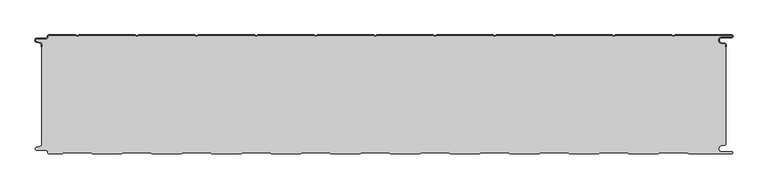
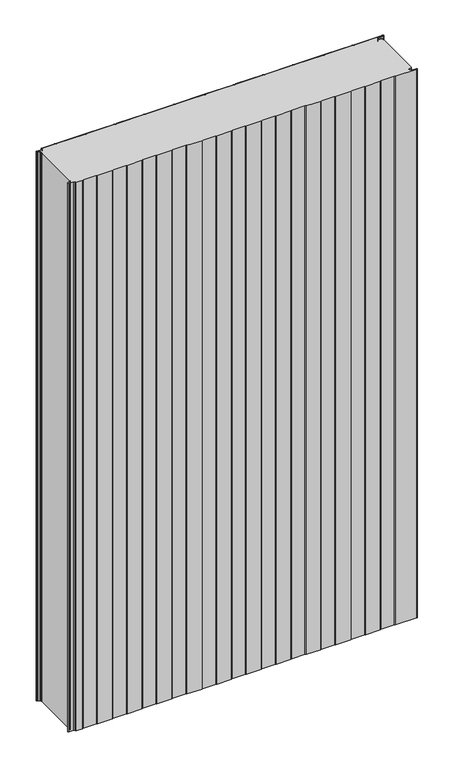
"""IFC4 building model written with IfcOpenShell, lengths in millimetres: plate geometry, PM1_Curtain-Panel_Perfil-Estándar : ACH_PM1_Panel-Acústico-Sectorización_200M."""

from ifc_helpers import new_model, si_unit, point, frame, frame_2d, origin, origin_with_axes, place, context, project, spatial, polyline, circle_curve, trimmed, segment, composite_curve, outline, extrude, source, transform, mapped, element, save
from ifc_brep_helpers import plane_surface, cylinder_surface, revolved_surface, advanced_brep


def plate_6d1bee30(model_context):
    return source(origin(), model_context, "Body", "SolidModel", [
        advanced_brep(
        [(-575.0, -15.878557, 1945.7507136), (-575.0, -20.0, 1945.7507136), (-574.2, -20.0, 1945.7507136), (-574.2, -15.878557, 1945.7507136), (-576.370137, -13.1503208, 1945.7507136), (-582.529863, -11.728236, 1945.7507136), (-581.9, -6.2, 1945.7507136), (-566.4, -6.2, 1945.7507136), (-563.6, -3.4, 1945.7507136), (-563.6, -2.0, 1945.7507136), (-562.4, -0.8, 1945.7507136), (-517.3143588, -0.8, 1945.7507136), (-514.4, -2.482606, 1945.7507136), (-511.4856412, -0.8, 1945.7507136), (-417.3143588, -0.8, 1945.7507136), (-414.4, -2.482606, 1945.7507136), (-411.4856412, -0.8, 1945.7507136), (-317.3143588, -0.8, 1945.7507136), (-314.4, -2.482606, 1945.7507136), (-311.4856412, -0.8, 1945.7507136), (-217.3143588, -0.8, 1945.7507136), (-214.4, -2.482606, 1945.7507136), (-211.4856412, -0.8, 1945.7507136), (-117.3143588, -0.8, 1945.7507136), (-114.4, -2.482606, 1945.7507136), (-111.4856412, -0.8, 1945.7507136), (-17.3143588, -0.8, 1945.7507136), (-14.4, -2.482606, 1945.7507136), (-11.4856412, -0.8, 1945.7507136), (82.6856412, -0.8, 1945.7507136), (85.6, -2.482606, 1945.7507136), (88.5143588, -0.8, 1945.7507136), (182.6856412, -0.8, 1945.7507136), (185.6, -2.482606, 1945.7507136), (188.5143588, -0.8, 1945.7507136), (282.6856412, -0.8, 1945.7507136), (285.6, -2.482606, 1945.7507136), (288.5143588, -0.8, 1945.7507136), (382.6856412, -0.8, 1945.7507136), (385.6, -2.482606, 1945.7507136), (388.5143588, -0.8, 1945.7507136), (482.6856412, -0.8, 1945.7507136), (485.6, -2.482606, 1945.7507136), (488.5143588, -0.8, 1945.7507136), (583.1, -0.8, 1945.7507136), (583.1, -4.2, 1945.7507136), (566.1, -4.2, 1945.7507136), (565.2664884, -13.7270771, 1945.7507136), (571.7125669, -14.8636953, 1945.7507136), (573.2, -16.6363492, 1945.7507136), (573.2, -20.0, 1945.7507136), (574.0, -20.0, 1945.7507136), (574.0, -16.6363492, 1945.7507136), (571.8514855, -14.0758491, 1945.7507136), (565.405407, -12.939231, 1945.7507136), (566.1, -5.0, 1945.7507136), (583.1, -5.0, 1945.7507136), (585.6, -2.5, 1945.7507136), (583.1, 0.0, 1945.7507136), (488.2999995, 0.0, 1945.7507136), (485.6, -1.5588455, 1945.7507136), (482.9000005, 0.0, 1945.7507136), (388.2999995, 0.0, 1945.7507136), (385.6, -1.5588455, 1945.7507136), (382.9000005, 0.0, 1945.7507136), (288.2999995, 0.0, 1945.7507136), (285.6, -1.5588455, 1945.7507136), (282.9000005, 0.0, 1945.7507136), (188.2999995, 0.0, 1945.7507136), (185.6, -1.5588455, 1945.7507136), (182.9000005, 0.0, 1945.7507136), (88.2999995, 0.0, 1945.7507136), (85.6, -1.5588455, 1945.7507136), (82.9000005, 0.0, 1945.7507136), (-11.7000005, 0.0, 1945.7507136), (-14.4, -1.5588455, 1945.7507136), (-17.0999995, 0.0, 1945.7507136), (-111.7000005, 0.0, 1945.7507136), (-114.4, -1.5588455, 1945.7507136), (-117.0999995, 0.0, 1945.7507136), (-211.7000005, 0.0, 1945.7507136), (-214.4, -1.5588455, 1945.7507136), (-217.0999995, 0.0, 1945.7507136), (-311.7000005, 0.0, 1945.7507136), (-314.4, -1.5588455, 1945.7507136), (-317.0999995, 0.0, 1945.7507136), (-411.7000005, 0.0, 1945.7507136), (-414.4, -1.5588455, 1945.7507136), (-417.0999995, 0.0, 1945.7507136), (-511.7000005, 0.0, 1945.7507136), (-514.4, -1.5588455, 1945.7507136), (-517.0999995, 0.0, 1945.7507136), (-562.4, 0.0, 1945.7507136), (-564.4, -2.0, 1945.7507136), (-564.4, -3.4, 1945.7507136), (-566.4, -5.4, 1945.7507136), (-581.9, -5.4, 1945.7507136), (-582.7098239, -12.5077322, 1945.7507136), (-576.5500979, -13.929817, 1945.7507136), (-575.0, -15.878557, 0.0), (-576.5500978, -13.9298169, 0.0), (-582.7098239, -12.507732, 0.0), (-581.9, -5.4, 0.0), (-566.4, -5.4, 0.0), (-564.4, -3.4, 0.0), (-564.4, -2.0, 0.0), (-562.4, 0.0, 0.0), (-517.0999995, 0.0, 0.0), (-514.4, -1.5588455, 0.0), (-511.7000005, 0.0, 0.0), (-417.0999995, 0.0, 0.0), (-414.4, -1.5588455, 0.0), (-411.7000005, 0.0, 0.0), (-317.0999995, 0.0, 0.0), (-314.4, -1.5588455, 0.0), (-311.7000005, 0.0, 0.0), (-217.0999995, 0.0, 0.0), (-214.4, -1.5588455, 0.0), (-211.7000005, 0.0, 0.0), (-117.0999995, 0.0, 0.0), (-114.4, -1.5588455, 0.0), (-111.7000005, 0.0, 0.0), (-17.0999995, 0.0, 0.0), (-14.4, -1.5588455, 0.0), (-11.7000005, 0.0, 0.0), (82.9000005, 0.0, 0.0), (85.6, -1.5588455, 0.0), (88.2999995, 0.0, 0.0), (182.9000005, 0.0, 0.0), (185.6, -1.5588455, 0.0), (188.2999995, 0.0, 0.0), (282.9000005, 0.0, 0.0), (285.6, -1.5588455, 0.0), (288.2999995, 0.0, 0.0), (382.9000005, 0.0, 0.0), (385.6, -1.5588455, 0.0), (388.2999995, 0.0, 0.0), (482.9000005, 0.0, 0.0), (485.6, -1.5588455, 0.0), (488.2999995, 0.0, 0.0), (583.1, 0.0, 0.0), (585.6, -2.5, 0.0), (583.1, -5.0, 0.0), (566.1, -5.0, 0.0), (565.405407, -12.939231, 0.0), (571.8514855, -14.0758491, 0.0), (574.0, -16.6363492, 0.0), (574.0, -20.0, 0.0), (573.2, -20.0, 0.0), (573.2, -16.6363492, 0.0), (571.7125669, -14.8636953, 0.0), (565.2664884, -13.7270772, 0.0), (566.1, -4.2, 0.0), (583.1, -4.2, 0.0), (583.1, -0.8, 0.0), (488.5143588, -0.8, 0.0), (485.6, -2.482606, 0.0), (482.6856412, -0.8, 0.0), (388.5143588, -0.8, 0.0), (385.6, -2.482606, 0.0), (382.6856412, -0.8, 0.0), (288.5143588, -0.8, 0.0), (285.6, -2.482606, 0.0), (282.6856412, -0.8, 0.0), (188.5143588, -0.8, 0.0), (185.6, -2.482606, 0.0), (182.6856412, -0.8, 0.0), (88.5143588, -0.8, 0.0), (85.6, -2.482606, 0.0), (82.6856412, -0.8, 0.0), (-11.4856412, -0.8, 0.0), (-14.4, -2.482606, 0.0), (-17.3143588, -0.8, 0.0), (-111.4856412, -0.8, 0.0), (-114.4, -2.482606, 0.0), (-117.3143588, -0.8, 0.0), (-211.4856412, -0.8, 0.0), (-214.4, -2.482606, 0.0), (-217.3143588, -0.8, 0.0), (-311.4856412, -0.8, 0.0), (-314.4, -2.482606, 0.0), (-317.3143588, -0.8, 0.0), (-411.4856412, -0.8, 0.0), (-414.4, -2.482606, 0.0), (-417.3143588, -0.8, 0.0), (-511.4856412, -0.8, 0.0), (-514.4, -2.482606, 0.0), (-517.3143588, -0.8, 0.0), (-562.4, -0.8, 0.0), (-563.6, -2.0, 0.0), (-563.6, -3.4, 0.0), (-566.4, -6.2, 0.0), (-581.9, -6.2, 0.0), (-582.529863, -11.7282362, 0.0), (-576.370137, -13.150321, 0.0), (-574.2, -15.878557, 0.0), (-574.2, -20.0, 0.0), (-575.0, -20.0, 0.0)],
        [
            (0, 1),
            (1, 2),
            (2, 3),
            (3, 4, circle_curve(frame((-577.0, -15.878557, 1945.7507136), z_axis=(0.0, 0.0, 1.0), x_axis=(1.0, 0.0, 0.0)), 2.8)),
            (4, 5),
            (5, 6, circle_curve(frame((-581.9, -9.0, 1945.7507136), z_axis=(0.0, 0.0, -1.0), x_axis=(1.0, 0.0, 0.0)), 2.8)),
            (6, 7),
            (7, 8, circle_curve(frame((-566.4, -3.4, 1945.7507136), z_axis=(0.0, 0.0, 1.0), x_axis=(1.0, 0.0, 0.0)), 2.8)),
            (8, 9),
            (9, 10, circle_curve(frame((-562.4, -2.0, 1945.7507136), z_axis=(0.0, 0.0, -1.0), x_axis=(1.0, 0.0, 0.0)), 1.2)),
            (10, 11),
            (11, 12),
            (12, 13),
            (13, 14),
            (14, 15),
            (15, 16),
            (16, 17),
            (17, 18),
            (18, 19),
            (19, 20),
            (20, 21),
            (21, 22),
            (22, 23),
            (23, 24),
            (24, 25),
            (25, 26),
            (26, 27),
            (27, 28),
            (28, 29),
            (29, 30),
            (30, 31),
            (31, 32),
            (32, 33),
            (33, 34),
            (34, 35),
            (35, 36),
            (36, 37),
            (37, 38),
            (38, 39),
            (39, 40),
            (40, 41),
            (41, 42),
            (42, 43),
            (43, 44),
            (44, 45, circle_curve(frame((583.1, -2.5, 1945.7507136), z_axis=(0.0, 0.0, -1.0), x_axis=(1.0, 0.0, 0.0)), 1.7)),
            (45, 46),
            (46, 47, circle_curve(frame((566.1, -9.0, 1945.7507136), z_axis=(0.0, 0.0, 1.0), x_axis=(1.0, 0.0, 0.0)), 4.8)),
            (47, 48),
            (48, 49, circle_curve(frame((571.4, -16.6363492, 1945.7507136), z_axis=(0.0, 0.0, -1.0), x_axis=(1.0, 0.0, 0.0)), 1.8)),
            (49, 50),
            (50, 51),
            (51, 52),
            (52, 53, circle_curve(frame((571.4, -16.6363492, 1945.7507136), z_axis=(0.0, 0.0, 1.0), x_axis=(1.0, 0.0, 0.0)), 2.6)),
            (53, 54),
            (54, 55, circle_curve(frame((566.1, -9.0, 1945.7507136), z_axis=(0.0, 0.0, -1.0), x_axis=(1.0, 0.0, 0.0)), 4.0)),
            (55, 56),
            (56, 57, circle_curve(frame((583.1, -2.5, 1945.7507136), z_axis=(0.0, 0.0, 1.0), x_axis=(1.0, 0.0, 0.0)), 2.5)),
            (57, 58, circle_curve(frame((583.1, -2.5, 1945.7507136), z_axis=(0.0, 0.0, 1.0), x_axis=(1.0, 0.0, 0.0)), 2.5)),
            (58, 59),
            (59, 60),
            (60, 61),
            (61, 62),
            (62, 63),
            (63, 64),
            (64, 65),
            (65, 66),
            (66, 67),
            (67, 68),
            (68, 69),
            (69, 70),
            (70, 71),
            (71, 72),
            (72, 73),
            (73, 74),
            (74, 75),
            (75, 76),
            (76, 77),
            (77, 78),
            (78, 79),
            (79, 80),
            (80, 81),
            (81, 82),
            (82, 83),
            (83, 84),
            (84, 85),
            (85, 86),
            (86, 87),
            (87, 88),
            (88, 89),
            (89, 90),
            (90, 91),
            (91, 92),
            (92, 93, circle_curve(frame((-562.4, -2.0, 1945.7507136), z_axis=(0.0, 0.0, 1.0), x_axis=(1.0, 0.0, 0.0)), 2.0)),
            (93, 94),
            (94, 95, circle_curve(frame((-566.4, -3.4, 1945.7507136), z_axis=(0.0, 0.0, -1.0), x_axis=(1.0, 0.0, 0.0)), 2.0)),
            (95, 96),
            (96, 97, circle_curve(frame((-581.9, -9.0, 1945.7507136), z_axis=(0.0, 0.0, 1.0), x_axis=(1.0, 0.0, 0.0)), 3.6)),
            (97, 98),
            (98, 0, circle_curve(frame((-577.0, -15.878557, 1945.7507136), z_axis=(0.0, 0.0, -1.0), x_axis=(1.0, 0.0, 0.0)), 2.0)),
            (99, 100, circle_curve(frame((-577.0, -15.878557, 0.0), z_axis=(0.0, 0.0, 1.0), x_axis=(1.0, 0.0, 0.0)), 2.0)),
            (100, 101),
            (101, 102, circle_curve(frame((-581.9, -9.0, 0.0), z_axis=(0.0, 0.0, -1.0), x_axis=(1.0, 0.0, 0.0)), 3.6)),
            (102, 103),
            (103, 104, circle_curve(frame((-566.4, -3.4, 0.0), z_axis=(0.0, 0.0, 1.0), x_axis=(1.0, 0.0, 0.0)), 2.0)),
            (104, 105),
            (105, 106, circle_curve(frame((-562.4, -2.0, 0.0), z_axis=(0.0, 0.0, -1.0), x_axis=(1.0, 0.0, 0.0)), 2.0)),
            (106, 107),
            (107, 108),
            (108, 109),
            (109, 110),
            (110, 111),
            (111, 112),
            (112, 113),
            (113, 114),
            (114, 115),
            (115, 116),
            (116, 117),
            (117, 118),
            (118, 119),
            (119, 120),
            (120, 121),
            (121, 122),
            (122, 123),
            (123, 124),
            (124, 125),
            (125, 126),
            (126, 127),
            (127, 128),
            (128, 129),
            (129, 130),
            (130, 131),
            (131, 132),
            (132, 133),
            (133, 134),
            (134, 135),
            (135, 136),
            (136, 137),
            (137, 138),
            (138, 139),
            (139, 140),
            (140, 141, circle_curve(frame((583.1, -2.5, 0.0), z_axis=(0.0, 0.0, -1.0), x_axis=(1.0, 0.0, 0.0)), 2.5)),
            (141, 142, circle_curve(frame((583.1, -2.5, 0.0), z_axis=(0.0, 0.0, -1.0), x_axis=(1.0, 0.0, 0.0)), 2.5)),
            (142, 143),
            (143, 144, circle_curve(frame((566.1, -9.0, 0.0), z_axis=(0.0, 0.0, 1.0), x_axis=(1.0, 0.0, 0.0)), 4.0)),
            (144, 145),
            (145, 146, circle_curve(frame((571.4, -16.6363492, 0.0), z_axis=(0.0, 0.0, -1.0), x_axis=(1.0, 0.0, 0.0)), 2.6)),
            (146, 147),
            (147, 148),
            (148, 149),
            (149, 150, circle_curve(frame((571.4, -16.6363492, 0.0), z_axis=(0.0, 0.0, 1.0), x_axis=(1.0, 0.0, 0.0)), 1.8)),
            (150, 151),
            (151, 152, circle_curve(frame((566.1, -9.0, 0.0), z_axis=(0.0, 0.0, -1.0), x_axis=(1.0, 0.0, 0.0)), 4.8)),
            (152, 153),
            (153, 154, circle_curve(frame((583.1, -2.5, 0.0), z_axis=(0.0, 0.0, 1.0), x_axis=(1.0, 0.0, 0.0)), 1.7)),
            (154, 155),
            (155, 156),
            (156, 157),
            (157, 158),
            (158, 159),
            (159, 160),
            (160, 161),
            (161, 162),
            (162, 163),
            (163, 164),
            (164, 165),
            (165, 166),
            (166, 167),
            (167, 168),
            (168, 169),
            (169, 170),
            (170, 171),
            (171, 172),
            (172, 173),
            (173, 174),
            (174, 175),
            (175, 176),
            (176, 177),
            (177, 178),
            (178, 179),
            (179, 180),
            (180, 181),
            (181, 182),
            (182, 183),
            (183, 184),
            (184, 185),
            (185, 186),
            (186, 187),
            (187, 188),
            (188, 189, circle_curve(frame((-562.4, -2.0, 0.0), z_axis=(0.0, 0.0, 1.0), x_axis=(1.0, 0.0, 0.0)), 1.2)),
            (189, 190),
            (190, 191, circle_curve(frame((-566.4, -3.4, 0.0), z_axis=(0.0, 0.0, -1.0), x_axis=(1.0, 0.0, 0.0)), 2.8)),
            (191, 192),
            (192, 193, circle_curve(frame((-581.9, -9.0, 0.0), z_axis=(0.0, 0.0, 1.0), x_axis=(1.0, 0.0, 0.0)), 2.8)),
            (193, 194),
            (194, 195, circle_curve(frame((-577.0, -15.878557, 0.0), z_axis=(0.0, 0.0, -1.0), x_axis=(1.0, 0.0, 0.0)), 2.8)),
            (195, 196),
            (196, 197),
            (197, 99),
            (0, 99),
            (197, 1),
            (196, 2),
            (195, 3),
            (194, 4),
            (193, 5),
            (192, 6),
            (191, 7),
            (190, 8),
            (189, 9),
            (188, 10),
            (187, 11),
            (186, 12),
            (185, 13),
            (184, 14),
            (183, 15),
            (182, 16),
            (181, 17),
            (180, 18),
            (179, 19),
            (178, 20),
            (177, 21),
            (176, 22),
            (175, 23),
            (174, 24),
            (173, 25),
            (172, 26),
            (171, 27),
            (170, 28),
            (169, 29),
            (168, 30),
            (167, 31),
            (166, 32),
            (165, 33),
            (164, 34),
            (163, 35),
            (162, 36),
            (161, 37),
            (160, 38),
            (159, 39),
            (158, 40),
            (157, 41),
            (156, 42),
            (155, 43),
            (154, 44),
            (153, 45),
            (152, 46),
            (151, 47),
            (150, 48),
            (149, 49),
            (148, 50),
            (147, 51),
            (146, 52),
            (145, 53),
            (144, 54),
            (143, 55),
            (142, 56),
            (140, 58),
            (139, 59),
            (138, 60),
            (137, 61),
            (136, 62),
            (135, 63),
            (134, 64),
            (133, 65),
            (132, 66),
            (131, 67),
            (130, 68),
            (129, 69),
            (128, 70),
            (127, 71),
            (126, 72),
            (125, 73),
            (124, 74),
            (123, 75),
            (122, 76),
            (121, 77),
            (120, 78),
            (119, 79),
            (118, 80),
            (117, 81),
            (116, 82),
            (115, 83),
            (114, 84),
            (113, 85),
            (112, 86),
            (111, 87),
            (110, 88),
            (109, 89),
            (108, 90),
            (107, 91),
            (106, 92),
            (105, 93),
            (104, 94),
            (103, 95),
            (102, 96),
            (101, 97),
            (100, 98),
        ],
        [
            plane_surface(frame((-575.0, 0.0, 1945.7507136), z_axis=(0.0, 0.0, 1.0), x_axis=(0.0, 1.0, 0.0))),
            plane_surface(frame((-575.0, 0.0, 0.0), z_axis=(0.0, 0.0, -1.0), x_axis=(0.0, 1.0, 0.0))),
            plane_surface(frame((-575.0, -15.878557, 1945.7507136), z_axis=(-1.0, 0.0, 0.0), x_axis=(0.0, 0.0, -1.0))),
            plane_surface(frame((-575.0, -20.0, 1945.7507136), z_axis=(0.0, -1.0, 0.0), x_axis=(0.0, 0.0, -1.0))),
            plane_surface(frame((-574.2, -20.0, 1945.7507136), z_axis=(1.0, 0.0, 0.0), x_axis=(0.0, 0.0, -1.0))),
            cylinder_surface(frame((-577.0, -15.878557, 1945.7507136), z_axis=(0.0, 0.0, 1.0), x_axis=(1.0, 0.0, 0.0)), 2.8),
            plane_surface(frame((-576.370137, -13.150321, 1945.7507136), z_axis=(0.22495108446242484, 0.9743700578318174, 0.0), x_axis=(0.0, 0.0, -1.0))),
            revolved_surface(polyline([(-579.1, -9.0, 0.0), (-579.1, -9.0, 1945.7507136)]), (-581.9, -9.0, 1945.7507136), (0.0, 0.0, -1.0)),
            plane_surface(frame((-581.9, -6.2, 1945.7507136), z_axis=(0.0, -1.0, 0.0), x_axis=(0.0, 0.0, -1.0))),
            cylinder_surface(frame((-566.4, -3.4, 1945.7507136), z_axis=(0.0, 0.0, 1.0), x_axis=(1.0, 0.0, 0.0)), 2.8),
            plane_surface(frame((-563.6, -3.4, 1945.7507136), z_axis=(1.0, 0.0, 0.0), x_axis=(0.0, 0.0, -1.0))),
            revolved_surface(polyline([(-561.1999999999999, -2.0, 0.0), (-561.1999999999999, -2.0, 1945.7507136)]), (-562.4, -2.0, 1945.7507136), (0.0, 0.0, -1.0)),
            plane_surface(frame((-562.4, -0.8, 1945.7507136), z_axis=(0.0, -1.0, 0.0), x_axis=(0.0, 0.0, -1.0))),
            plane_surface(frame((-517.3143588, -0.8, 1945.7507136), z_axis=(-0.5000000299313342, -0.8660253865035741, 0.0), x_axis=(0.0, 0.0, -1.0))),
            plane_surface(frame((-514.4, -2.482606, 1945.7507136), z_axis=(0.5000000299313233, -0.8660253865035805, 0.0), x_axis=(0.0, 0.0, -1.0))),
            plane_surface(frame((-511.4856412, -0.8, 1945.7507136), z_axis=(0.0, -1.0, 0.0), x_axis=(0.0, 0.0, -1.0))),
            plane_surface(frame((-417.3143588, -0.8, 1945.7507136), z_axis=(-0.5000000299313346, -0.8660253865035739, 0.0), x_axis=(0.0, 0.0, -1.0))),
            plane_surface(frame((-414.4, -2.482606, 1945.7507136), z_axis=(0.5000000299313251, -0.8660253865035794, 0.0), x_axis=(0.0, 0.0, -1.0))),
            plane_surface(frame((-411.4856412, -0.8, 1945.7507136), z_axis=(0.0, -1.0, 0.0), x_axis=(0.0, 0.0, -1.0))),
            plane_surface(frame((-317.3143588, -0.8, 1945.7507136), z_axis=(-0.5000000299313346, -0.866025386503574, 0.0), x_axis=(0.0, 0.0, -1.0))),
            plane_surface(frame((-314.4, -2.482606, 1945.7507136), z_axis=(0.5000000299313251, -0.8660253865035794, 0.0), x_axis=(0.0, 0.0, -1.0))),
            plane_surface(frame((-311.4856412, -0.8, 1945.7507136), z_axis=(0.0, -1.0, 0.0), x_axis=(0.0, 0.0, -1.0))),
            plane_surface(frame((-217.3143588, -0.8, 1945.7507136), z_axis=(-0.5000000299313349, -0.8660253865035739, 0.0), x_axis=(0.0, 0.0, -1.0))),
            plane_surface(frame((-214.4, -2.482606, 1945.7507136), z_axis=(0.5000000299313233, -0.8660253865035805, 0.0), x_axis=(0.0, 0.0, -1.0))),
            plane_surface(frame((-211.4856412, -0.8, 1945.7507136), z_axis=(0.0, -1.0, 0.0), x_axis=(0.0, 0.0, -1.0))),
            plane_surface(frame((-117.3143588, -0.8, 1945.7507136), z_axis=(-0.5000000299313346, -0.866025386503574, 0.0), x_axis=(0.0, 0.0, -1.0))),
            plane_surface(frame((-114.4, -2.482606, 1945.7507136), z_axis=(0.5000000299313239, -0.8660253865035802, 0.0), x_axis=(0.0, 0.0, -1.0))),
            plane_surface(frame((-111.4856412, -0.8, 1945.7507136), z_axis=(0.0, -1.0, 0.0), x_axis=(0.0, 0.0, -1.0))),
            plane_surface(frame((-17.3143588, -0.8, 1945.7507136), z_axis=(-0.5000000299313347, -0.8660253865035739, 0.0), x_axis=(0.0, 0.0, -1.0))),
            plane_surface(frame((-14.4, -2.482606, 1945.7507136), z_axis=(0.5000000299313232, -0.8660253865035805, 0.0), x_axis=(0.0, 0.0, -1.0))),
            plane_surface(frame((-11.4856412, -0.8, 1945.7507136), z_axis=(0.0, -1.0, 0.0), x_axis=(0.0, 0.0, -1.0))),
            plane_surface(frame((82.6856412, -0.8, 1945.7507136), z_axis=(-0.5000000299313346, -0.866025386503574, 0.0), x_axis=(0.0, 0.0, -1.0))),
            plane_surface(frame((85.6, -2.482606, 1945.7507136), z_axis=(0.5000000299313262, -0.8660253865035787, 0.0), x_axis=(0.0, 0.0, -1.0))),
            plane_surface(frame((88.5143588, -0.8, 1945.7507136), z_axis=(0.0, -1.0, 0.0), x_axis=(0.0, 0.0, -1.0))),
            plane_surface(frame((182.6856412, -0.8, 1945.7507136), z_axis=(-0.5000000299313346, -0.8660253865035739, 0.0), x_axis=(0.0, 0.0, -1.0))),
            plane_surface(frame((185.6, -2.482606, 1945.7507136), z_axis=(0.5000000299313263, -0.8660253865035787, 0.0), x_axis=(0.0, 0.0, -1.0))),
            plane_surface(frame((188.5143588, -0.8, 1945.7507136), z_axis=(0.0, -1.0, 0.0), x_axis=(0.0, 0.0, -1.0))),
            plane_surface(frame((282.6856412, -0.8, 1945.7507136), z_axis=(-0.5000000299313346, -0.8660253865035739, 0.0), x_axis=(0.0, 0.0, -1.0))),
            plane_surface(frame((285.6, -2.482606, 1945.7507136), z_axis=(0.5000000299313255, -0.8660253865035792, 0.0), x_axis=(0.0, 0.0, -1.0))),
            plane_surface(frame((288.5143588, -0.8, 1945.7507136), z_axis=(0.0, -1.0, 0.0), x_axis=(0.0, 0.0, -1.0))),
            plane_surface(frame((382.6856412, -0.8, 1945.7507136), z_axis=(-0.5000000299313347, -0.8660253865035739, 0.0), x_axis=(0.0, 0.0, -1.0))),
            plane_surface(frame((385.6, -2.482606, 1945.7507136), z_axis=(0.5000000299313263, -0.8660253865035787, 0.0), x_axis=(0.0, 0.0, -1.0))),
            plane_surface(frame((388.5143588, -0.8, 1945.7507136), z_axis=(0.0, -1.0, 0.0), x_axis=(0.0, 0.0, -1.0))),
            plane_surface(frame((482.6856412, -0.8, 1945.7507136), z_axis=(-0.5000000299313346, -0.866025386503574, 0.0), x_axis=(0.0, 0.0, -1.0))),
            plane_surface(frame((485.6, -2.482606, 1945.7507136), z_axis=(0.5000000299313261, -0.8660253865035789, 0.0), x_axis=(0.0, 0.0, -1.0))),
            plane_surface(frame((535.6, -0.8, 1945.7507136), z_axis=(0.0, -1.0, 0.0), x_axis=(0.0, 0.0, -1.0))),
            revolved_surface(polyline([(584.8000000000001, -2.5, 0.0), (584.8000000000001, -2.5, 1945.7507136)]), (583.1, -2.5, 1945.7507136), (0.0, 0.0, -1.0)),
            plane_surface(frame((583.1, -4.2, 1945.7507136), z_axis=(0.0, 1.0, 0.0), x_axis=(0.0, 0.0, -1.0))),
            cylinder_surface(frame((566.1, -9.0, 1945.7507136), z_axis=(0.0, 0.0, 1.0), x_axis=(1.0, 0.0, 0.0)), 4.8),
            plane_surface(frame((565.2664884, -13.7270772, 1945.7507136), z_axis=(-0.17364825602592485, -0.9848077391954, 0.0), x_axis=(0.0, 0.0, -1.0))),
            revolved_surface(polyline([(573.1999999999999, -16.6363492, 0.0), (573.1999999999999, -16.6363492, 1945.7507136)]), (571.4, -16.6363492, 1945.7507136), (0.0, 0.0, -1.0)),
            plane_surface(frame((573.2, -16.6363492, 1945.7507136), z_axis=(-1.0, 0.0, 0.0), x_axis=(0.0, 0.0, -1.0))),
            plane_surface(frame((573.2, -20.0, 1945.7507136), z_axis=(0.0, -1.0, 0.0), x_axis=(0.0, 0.0, -1.0))),
            plane_surface(frame((574.0, -20.0, 1945.7507136), z_axis=(1.0, 0.0, 0.0), x_axis=(0.0, 0.0, -1.0))),
            cylinder_surface(frame((571.4, -16.6363492, 1945.7507136), z_axis=(0.0, 0.0, 1.0), x_axis=(1.0, 0.0, 0.0)), 2.6),
            plane_surface(frame((571.8514855, -14.0758491, 1945.7507136), z_axis=(0.1736482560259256, 0.9848077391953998, 0.0), x_axis=(0.0, 0.0, -1.0))),
            revolved_surface(polyline([(570.1, -9.0, 0.0), (570.1, -9.0, 1945.7507136)]), (566.1, -9.0, 1945.7507136), (0.0, 0.0, -1.0)),
            plane_surface(frame((566.1, -5.0, 1945.7507136), z_axis=(0.0, -1.0, 0.0), x_axis=(0.0, 0.0, -1.0))),
            cylinder_surface(frame((583.1, -2.5, 1945.7507136), z_axis=(0.0, 0.0, 1.0), x_axis=(1.0, 0.0, 0.0)), 2.5),
            plane_surface(frame((535.6, 0.0, 1945.7507136), z_axis=(0.0, 1.0, 0.0), x_axis=(0.0, 0.0, -1.0))),
            plane_surface(frame((488.2999995, 0.0, 1945.7507136), z_axis=(-0.5000000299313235, 0.8660253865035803, 0.0), x_axis=(0.0, 0.0, -1.0))),
            plane_surface(frame((485.6, -1.5588455, 1945.7507136), z_axis=(0.5000000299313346, 0.8660253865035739, 0.0), x_axis=(0.0, 0.0, -1.0))),
            plane_surface(frame((482.9000005, 0.0, 1945.7507136), z_axis=(0.0, 1.0, 0.0), x_axis=(0.0, 0.0, -1.0))),
            plane_surface(frame((388.2999995, 0.0, 1945.7507136), z_axis=(-0.5000000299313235, 0.8660253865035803, 0.0), x_axis=(0.0, 0.0, -1.0))),
            plane_surface(frame((385.6, -1.5588455, 1945.7507136), z_axis=(0.5000000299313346, 0.8660253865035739, 0.0), x_axis=(0.0, 0.0, -1.0))),
            plane_surface(frame((382.9000005, 0.0, 1945.7507136), z_axis=(0.0, 1.0, 0.0), x_axis=(0.0, 0.0, -1.0))),
            plane_surface(frame((288.2999995, 0.0, 1945.7507136), z_axis=(-0.5000000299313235, 0.8660253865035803, 0.0), x_axis=(0.0, 0.0, -1.0))),
            plane_surface(frame((285.6, -1.5588455, 1945.7507136), z_axis=(0.5000000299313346, 0.8660253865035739, 0.0), x_axis=(0.0, 0.0, -1.0))),
            plane_surface(frame((282.9000005, 0.0, 1945.7507136), z_axis=(0.0, 1.0, 0.0), x_axis=(0.0, 0.0, -1.0))),
            plane_surface(frame((188.2999995, 0.0, 1945.7507136), z_axis=(-0.5000000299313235, 0.8660253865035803, 0.0), x_axis=(0.0, 0.0, -1.0))),
            plane_surface(frame((185.6, -1.5588455, 1945.7507136), z_axis=(0.5000000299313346, 0.8660253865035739, 0.0), x_axis=(0.0, 0.0, -1.0))),
            plane_surface(frame((182.9000005, 0.0, 1945.7507136), z_axis=(0.0, 1.0, 0.0), x_axis=(0.0, 0.0, -1.0))),
            plane_surface(frame((88.2999995, 0.0, 1945.7507136), z_axis=(-0.5000000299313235, 0.8660253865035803, 0.0), x_axis=(0.0, 0.0, -1.0))),
            plane_surface(frame((85.6, -1.5588455, 1945.7507136), z_axis=(0.5000000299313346, 0.8660253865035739, 0.0), x_axis=(0.0, 0.0, -1.0))),
            plane_surface(frame((82.9000005, 0.0, 1945.7507136), z_axis=(0.0, 1.0, 0.0), x_axis=(0.0, 0.0, -1.0))),
            plane_surface(frame((-11.7000005, 0.0, 1945.7507136), z_axis=(-0.5000000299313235, 0.8660253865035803, 0.0), x_axis=(0.0, 0.0, -1.0))),
            plane_surface(frame((-14.4, -1.5588455, 1945.7507136), z_axis=(0.5000000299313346, 0.8660253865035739, 0.0), x_axis=(0.0, 0.0, -1.0))),
            plane_surface(frame((-17.0999995, 0.0, 1945.7507136), z_axis=(0.0, 1.0, 0.0), x_axis=(0.0, 0.0, -1.0))),
            plane_surface(frame((-111.7000005, 0.0, 1945.7507136), z_axis=(-0.5000000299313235, 0.8660253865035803, 0.0), x_axis=(0.0, 0.0, -1.0))),
            plane_surface(frame((-114.4, -1.5588455, 1945.7507136), z_axis=(0.5000000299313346, 0.8660253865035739, 0.0), x_axis=(0.0, 0.0, -1.0))),
            plane_surface(frame((-117.0999995, 0.0, 1945.7507136), z_axis=(0.0, 1.0, 0.0), x_axis=(0.0, 0.0, -1.0))),
            plane_surface(frame((-211.7000005, 0.0, 1945.7507136), z_axis=(-0.5000000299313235, 0.8660253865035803, 0.0), x_axis=(0.0, 0.0, -1.0))),
            plane_surface(frame((-214.4, -1.5588455, 1945.7507136), z_axis=(0.5000000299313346, 0.8660253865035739, 0.0), x_axis=(0.0, 0.0, -1.0))),
            plane_surface(frame((-217.0999995, 0.0, 1945.7507136), z_axis=(0.0, 1.0, 0.0), x_axis=(0.0, 0.0, -1.0))),
            plane_surface(frame((-311.7000005, 0.0, 1945.7507136), z_axis=(-0.5000000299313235, 0.8660253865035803, 0.0), x_axis=(0.0, 0.0, -1.0))),
            plane_surface(frame((-314.4, -1.5588455, 1945.7507136), z_axis=(0.5000000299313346, 0.8660253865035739, 0.0), x_axis=(0.0, 0.0, -1.0))),
            plane_surface(frame((-317.0999995, 0.0, 1945.7507136), z_axis=(0.0, 1.0, 0.0), x_axis=(0.0, 0.0, -1.0))),
            plane_surface(frame((-411.7000005, 0.0, 1945.7507136), z_axis=(-0.5000000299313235, 0.8660253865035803, 0.0), x_axis=(0.0, 0.0, -1.0))),
            plane_surface(frame((-414.4, -1.5588455, 1945.7507136), z_axis=(0.5000000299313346, 0.8660253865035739, 0.0), x_axis=(0.0, 0.0, -1.0))),
            plane_surface(frame((-417.0999995, 0.0, 1945.7507136), z_axis=(0.0, 1.0, 0.0), x_axis=(0.0, 0.0, -1.0))),
            plane_surface(frame((-511.7000005, 0.0, 1945.7507136), z_axis=(-0.5000000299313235, 0.8660253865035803, 0.0), x_axis=(0.0, 0.0, -1.0))),
            plane_surface(frame((-514.4, -1.5588455, 1945.7507136), z_axis=(0.5000000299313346, 0.8660253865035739, 0.0), x_axis=(0.0, 0.0, -1.0))),
            plane_surface(frame((-517.0999995, 0.0, 1945.7507136), z_axis=(0.0, 1.0, 0.0), x_axis=(0.0, 0.0, -1.0))),
            cylinder_surface(frame((-562.4, -2.0, 1945.7507136), z_axis=(0.0, 0.0, 1.0), x_axis=(1.0, 0.0, 0.0)), 2.0),
            plane_surface(frame((-564.4, -2.0, 1945.7507136), z_axis=(-1.0, 0.0, 0.0), x_axis=(0.0, 0.0, -1.0))),
            revolved_surface(polyline([(-564.4, -3.4, 0.0), (-564.4, -3.4, 1945.7507136)]), (-566.4, -3.4, 1945.7507136), (0.0, 0.0, -1.0)),
            plane_surface(frame((-566.4, -5.4, 1945.7507136), z_axis=(0.0, 1.0, 0.0), x_axis=(0.0, 0.0, -1.0))),
            cylinder_surface(frame((-581.9, -9.0, 1945.7507136), z_axis=(0.0, 0.0, 1.0), x_axis=(1.0, 0.0, 0.0)), 3.6),
            plane_surface(frame((-582.7098239, -12.507732, 1945.7507136), z_axis=(-0.22495108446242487, -0.9743700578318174, 0.0), x_axis=(0.0, 0.0, -1.0))),
            revolved_surface(polyline([(-575.0, -15.878557, 0.0), (-575.0, -15.878557, 1945.7507136)]), (-577.0, -15.878557, 1945.7507136), (0.0, 0.0, -1.0)),
        ],
        [
            (0, [[1, 2, 3, 4, 5, 6, 7, 8, 9, 10, 11, 12, 13, 14, 15, 16, 17, 18, 19, 20, 21, 22, 23, 24, 25, 26, 27, 28, 29, 30, 31, 32, 33, 34, 35, 36, 37, 38, 39, 40, 41, 42, 43, 44, 45, 46, 47, 48, 49, 50, 51, 52, 53, 54, 55, 56, 57, 58, 59, 60, 61, 62, 63, 64, 65, 66, 67, 68, 69, 70, 71, 72, 73, 74, 75, 76, 77, 78, 79, 80, 81, 82, 83, 84, 85, 86, 87, 88, 89, 90, 91, 92, 93, 94, 95, 96, 97, 98, 99]]),
            (1, [[100, 101, 102, 103, 104, 105, 106, 107, 108, 109, 110, 111, 112, 113, 114, 115, 116, 117, 118, 119, 120, 121, 122, 123, 124, 125, 126, 127, 128, 129, 130, 131, 132, 133, 134, 135, 136, 137, 138, 139, 140, 141, 142, 143, 144, 145, 146, 147, 148, 149, 150, 151, 152, 153, 154, 155, 156, 157, 158, 159, 160, 161, 162, 163, 164, 165, 166, 167, 168, 169, 170, 171, 172, 173, 174, 175, 176, 177, 178, 179, 180, 181, 182, 183, 184, 185, 186, 187, 188, 189, 190, 191, 192, 193, 194, 195, 196, 197, 198]]),
            (2, [[-1, 199, -198, 200]]),
            (3, [[-2, -200, -197, 201]]),
            (4, [[-3, -201, -196, 202]]),
            (5, [[-4, -202, -195, 203]]),
            (6, [[-5, -203, -194, 204]]),
            (7, [[-6, -204, -193, 205]]),
            (8, [[-7, -205, -192, 206]]),
            (9, [[-8, -206, -191, 207]]),
            (10, [[-9, -207, -190, 208]]),
            (11, [[-10, -208, -189, 209]]),
            (12, [[-11, -209, -188, 210]]),
            (13, [[-12, -210, -187, 211]]),
            (14, [[-13, -211, -186, 212]]),
            (15, [[-14, -212, -185, 213]]),
            (16, [[-15, -213, -184, 214]]),
            (17, [[-16, -214, -183, 215]]),
            (18, [[-17, -215, -182, 216]]),
            (19, [[-18, -216, -181, 217]]),
            (20, [[-19, -217, -180, 218]]),
            (21, [[-20, -218, -179, 219]]),
            (22, [[-21, -219, -178, 220]]),
            (23, [[-22, -220, -177, 221]]),
            (24, [[-23, -221, -176, 222]]),
            (25, [[-24, -222, -175, 223]]),
            (26, [[-25, -223, -174, 224]]),
            (27, [[-26, -224, -173, 225]]),
            (28, [[-27, -225, -172, 226]]),
            (29, [[-28, -226, -171, 227]]),
            (30, [[-29, -227, -170, 228]]),
            (31, [[-30, -228, -169, 229]]),
            (32, [[-31, -229, -168, 230]]),
            (33, [[-32, -230, -167, 231]]),
            (34, [[-33, -231, -166, 232]]),
            (35, [[-34, -232, -165, 233]]),
            (36, [[-35, -233, -164, 234]]),
            (37, [[-36, -234, -163, 235]]),
            (38, [[-37, -235, -162, 236]]),
            (39, [[-38, -236, -161, 237]]),
            (40, [[-39, -237, -160, 238]]),
            (41, [[-40, -238, -159, 239]]),
            (42, [[-41, -239, -158, 240]]),
            (43, [[-42, -240, -157, 241]]),
            (44, [[-43, -241, -156, 242]]),
            (45, [[-44, -242, -155, 243]]),
            (46, [[-45, -243, -154, 244]]),
            (47, [[-46, -244, -153, 245]]),
            (48, [[-47, -245, -152, 246]]),
            (49, [[-48, -246, -151, 247]]),
            (50, [[-49, -247, -150, 248]]),
            (51, [[-50, -248, -149, 249]]),
            (52, [[-51, -249, -148, 250]]),
            (53, [[-52, -250, -147, 251]]),
            (54, [[-53, -251, -146, 252]]),
            (55, [[-54, -252, -145, 253]]),
            (56, [[-55, -253, -144, 254]]),
            (57, [[-56, -254, -143, 255]]),
            (58, [[-255, -142, -141, 256, -58, -57]]),
            (59, [[-59, -256, -140, 257]]),
            (60, [[-60, -257, -139, 258]]),
            (61, [[-61, -258, -138, 259]]),
            (62, [[-62, -259, -137, 260]]),
            (63, [[-63, -260, -136, 261]]),
            (64, [[-64, -261, -135, 262]]),
            (65, [[-65, -262, -134, 263]]),
            (66, [[-66, -263, -133, 264]]),
            (67, [[-67, -264, -132, 265]]),
            (68, [[-68, -265, -131, 266]]),
            (69, [[-69, -266, -130, 267]]),
            (70, [[-70, -267, -129, 268]]),
            (71, [[-71, -268, -128, 269]]),
            (72, [[-72, -269, -127, 270]]),
            (73, [[-73, -270, -126, 271]]),
            (74, [[-74, -271, -125, 272]]),
            (75, [[-75, -272, -124, 273]]),
            (76, [[-76, -273, -123, 274]]),
            (77, [[-77, -274, -122, 275]]),
            (78, [[-78, -275, -121, 276]]),
            (79, [[-79, -276, -120, 277]]),
            (80, [[-80, -277, -119, 278]]),
            (81, [[-81, -278, -118, 279]]),
            (82, [[-82, -279, -117, 280]]),
            (83, [[-83, -280, -116, 281]]),
            (84, [[-84, -281, -115, 282]]),
            (85, [[-85, -282, -114, 283]]),
            (86, [[-86, -283, -113, 284]]),
            (87, [[-87, -284, -112, 285]]),
            (88, [[-88, -285, -111, 286]]),
            (89, [[-89, -286, -110, 287]]),
            (90, [[-90, -287, -109, 288]]),
            (91, [[-91, -288, -108, 289]]),
            (92, [[-92, -289, -107, 290]]),
            (93, [[-93, -290, -106, 291]]),
            (94, [[-94, -291, -105, 292]]),
            (95, [[-95, -292, -104, 293]]),
            (96, [[-96, -293, -103, 294]]),
            (97, [[-97, -294, -102, 295]]),
            (98, [[-98, -295, -101, 296]]),
            (99, [[-99, -296, -100, -199]]),
        ],
    ),
        extrude(outline(composite_curve([segment(polyline([(-574.2, -184.121443), (-574.2, -15.8785573)]), True, "CONTINUOUS"), segment(trimmed(circle_curve(frame_2d((-577.0, -15.8785573)), 2.8), [point((-574.2, -15.8785573))], [point((-576.370137, -13.1503212))], True, "CARTESIAN"), True, "CONTINUOUS"), segment(polyline([(-576.370137, -13.1503212), (-582.5298631, -11.7282362)]), True, "CONTINUOUS"), segment(trimmed(circle_curve(frame_2d((-581.9, -9.0)), 2.8), [point((-582.5298631, -11.7282362))], [point((-581.9, -6.2))], False, "CARTESIAN"), True, "CONTINUOUS"), segment(polyline([(-581.9, -6.2), (-566.4000001, -6.2)]), True, "CONTINUOUS"), segment(trimmed(circle_curve(frame_2d((-566.4000001, -3.4)), 2.8), [point((-566.4000001, -6.2))], [point((-563.6000001, -3.4))], True, "CARTESIAN"), True, "CONTINUOUS"), segment(polyline([(-563.6000001, -3.4), (-563.6000001, -2.0)]), True, "CONTINUOUS"), segment(trimmed(circle_curve(frame_2d((-562.4000001, -2.0)), 1.2), [point((-563.6000001, -2.0))], [point((-562.4000001, -0.8))], False, "CARTESIAN"), True, "CONTINUOUS"), segment(polyline([(-562.4000001, -0.8), (-517.3143589, -0.8), (-514.4000001, -2.482606), (-511.4856412, -0.8), (-417.3143589, -0.8), (-414.4000001, -2.482606), (-411.4856412, -0.8), (-317.3143589, -0.8), (-314.4000001, -2.482606), (-311.4856412, -0.8), (-217.3143589, -0.8), (-214.4000001, -2.482606), (-211.4856412, -0.8), (-117.3143589, -0.8), (-114.4000001, -2.482606), (-111.4856412, -0.8), (-17.3143589, -0.8), (-14.4000001, -2.482606), (-11.4856412, -0.8), (82.6856411, -0.8), (85.5999999, -2.482606), (88.5143588, -0.8), (182.6856411, -0.8), (185.5999999, -2.482606), (188.5143588, -0.8), (282.6856411, -0.8), (285.5999999, -2.482606), (288.5143588, -0.8), (382.6856411, -0.8), (385.5999999, -2.482606), (388.5143588, -0.8), (482.6856411, -0.8), (485.6, -2.482606), (488.5143588, -0.8), (583.1, -0.8)]), True, "CONTINUOUS"), segment(trimmed(circle_curve(frame_2d((583.1, -2.5)), 1.7), [point((583.1, -0.8))], [point((583.1, -4.2))], False, "CARTESIAN"), True, "CONTINUOUS"), segment(polyline([(583.1, -4.2), (566.1, -4.2)]), True, "CONTINUOUS"), segment(trimmed(circle_curve(frame_2d((566.1, -9.0)), 4.8), [point((566.1, -4.2))], [point((565.2664883, -13.7270771))], True, "CARTESIAN"), True, "CONTINUOUS"), segment(polyline([(565.2664883, -13.7270771), (571.7125668, -14.8636953)]), True, "CONTINUOUS"), segment(trimmed(circle_curve(frame_2d((571.4, -16.6363492)), 1.8), [point((571.7125668, -14.8636953))], [point((573.2, -16.6363492))], False, "CARTESIAN"), True, "CONTINUOUS"), segment(polyline([(573.2, -16.6363492), (573.2, -183.363652)]), True, "CONTINUOUS"), segment(trimmed(circle_curve(frame_2d((571.4, -183.363652)), 1.8), [point((573.2, -183.363652))], [point((571.7125666, -185.1363059))], False, "CARTESIAN"), True, "CONTINUOUS"), segment(polyline([(571.7125666, -185.1363059), (565.266489, -186.272923)]), True, "CONTINUOUS"), segment(trimmed(circle_curve(frame_2d((566.1, -191.0000002)), 4.7999999), [point((565.266489, -186.272923))], [point((566.1, -195.8000001))], True, "CARTESIAN"), True, "CONTINUOUS"), segment(polyline([(566.1, -195.8000001), (583.1, -195.8000001)]), True, "CONTINUOUS"), segment(trimmed(circle_curve(frame_2d((583.1, -197.5)), 1.7), [point((583.1, -195.8000001))], [point((583.1, -199.2))], False, "CARTESIAN"), True, "CONTINUOUS"), segment(polyline([(583.1, -199.2), (510.8105122, -199.2), (508.2124346, -197.7), (462.9837184, -197.7), (460.3856408, -199.2), (410.8105122, -199.2), (408.2124346, -197.7), (362.9837184, -197.7), (360.3856408, -199.2), (310.8105122, -199.2), (308.2124346, -197.7), (262.9837184, -197.7), (260.3856408, -199.2), (210.8105122, -199.2), (208.2124346, -197.7), (162.9837184, -197.7), (160.3856408, -199.2), (110.8105122, -199.2), (108.2124346, -197.7), (62.9837184, -197.7), (60.3856408, -199.2), (10.8105122, -199.2), (8.2124346, -197.7), (-37.0162816, -197.7), (-39.6143592, -199.2), (-89.1894878, -199.2), (-91.7875654, -197.7), (-137.0162816, -197.7), (-139.6143592, -199.2), (-189.1894878, -199.2), (-191.7875654, -197.7), (-237.0162816, -197.7), (-239.6143592, -199.2), (-289.1894878, -199.2), (-291.7875654, -197.7), (-337.0162816, -197.7), (-339.6143592, -199.2), (-389.1894878, -199.2), (-391.7875654, -197.7), (-437.0162816, -197.7), (-439.6143592, -199.2), (-489.1894878, -199.2), (-491.7875654, -197.7), (-537.0162816, -197.7), (-539.6143592, -199.2), (-562.4, -199.2)]), True, "CONTINUOUS"), segment(trimmed(circle_curve(frame_2d((-562.4, -198.0)), 1.2), [point((-562.4, -199.2))], [point((-563.6, -198.0))], False, "CARTESIAN"), True, "CONTINUOUS"), segment(polyline([(-563.6, -198.0), (-563.6, -196.5999998)]), True, "CONTINUOUS"), segment(trimmed(circle_curve(frame_2d((-566.4, -196.5999998)), 2.8), [point((-563.6, -196.5999998))], [point((-566.4, -193.7999998))], True, "CARTESIAN"), True, "CONTINUOUS"), segment(polyline([(-566.4, -193.7999998), (-581.9, -193.7999998)]), True, "CONTINUOUS"), segment(trimmed(circle_curve(frame_2d((-581.9, -191.0)), 2.7999998), [point((-581.9, -193.7999998))], [point((-582.529863, -188.271764))], False, "CARTESIAN"), True, "CONTINUOUS"), segment(polyline([(-582.529863, -188.271764), (-576.370137, -186.8496792)]), True, "CONTINUOUS"), segment(trimmed(circle_curve(frame_2d((-577.0, -184.121443)), 2.8), [point((-576.370137, -186.8496792))], [point((-574.2, -184.121443))], True, "CARTESIAN"), True, "CONTINUOUS")], self_intersect=False)), origin_with_axes(), (0.0, 0.0, 1.0), 1945.7507136),
    ])


if __name__ == "__main__":
    model = new_model("IFC4")
    model_context = context("Model", 3, world=origin())
    ifc_project = project(units=[si_unit("LENGTHUNIT", "METRE", prefix="MILLI")], contexts=[model_context])
    site = spatial("IfcSite", under=ifc_project)
    building = spatial("IfcBuilding", under=site)
    placement = place(None, origin())
    plate_shape = plate_6d1bee30(model_context)
    element("IfcPlate", 1, ObjectType="PM1_Curtain-Panel_Perfil-Estándar : ACH_PM1_Panel-Acústico-Sectorización_200M", at=placement, inside=building, context=model_context, shape_type="MappedRepresentation", body=[
        mapped(plate_shape, transform((0.0, 0.0, 0.0), x_axis=(1.0, 0.0, 0.0), y_axis=(0.0, 1.0, 0.0), z_axis=(0.0, 0.0, 1.0))),
    ])
    save(model, "model.ifc")
